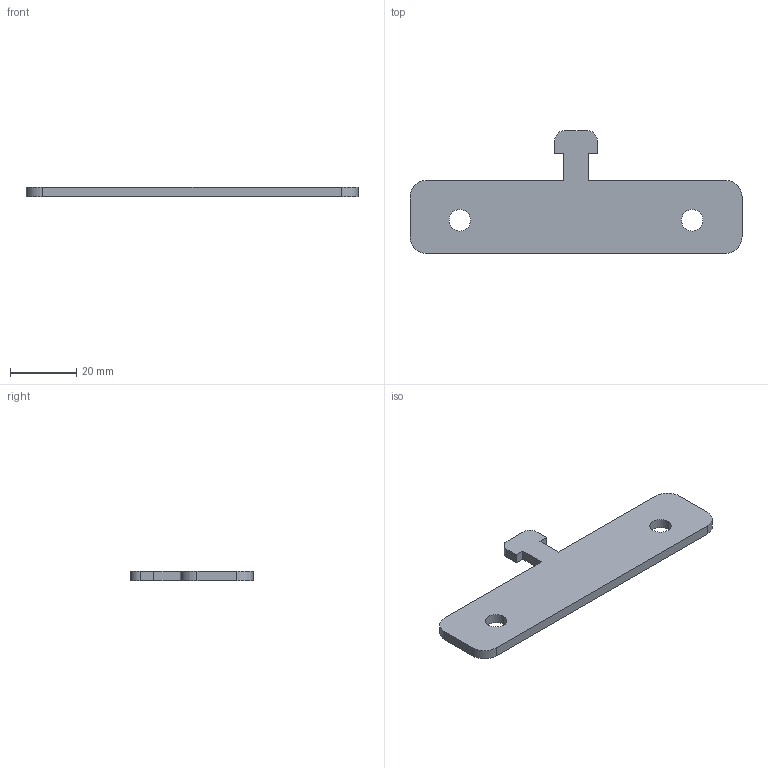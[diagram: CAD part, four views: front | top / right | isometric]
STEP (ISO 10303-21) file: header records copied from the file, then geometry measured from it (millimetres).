
FILE_DESCRIPTION (( 'STEP AP203' ), '1' );
FILE_NAME ('084.106.170.STEP', '2013-01-23T12:35:25', ( 'Alusic' ), ( 'Alusic' ), 'SwSTEP 2.0', 'SolidWorks 2011', '' );
FILE_SCHEMA (( 'CONFIG_CONTROL_DESIGN' ));
Length unit declared in the file: millimetre
Products named in the file (1): 084.106.170
Bounding box: 100 x 37 x 3 mm (x, y, z)
Volume: 6768.9 mm3; surface area: 5456.7 mm2
Topology: 1 solids, 1 shells, 24 faces, 66 edges, 44 vertices
Faces by surface type: plane 14, cylinder 10
Entity records: 855 total; most frequent: DIRECTION 136, CARTESIAN_POINT 135, ORIENTED_EDGE 132, EDGE_CURVE 66, LINE 46, VECTOR 46, AXIS2_PLACEMENT_3D 45, VERTEX_POINT 44
